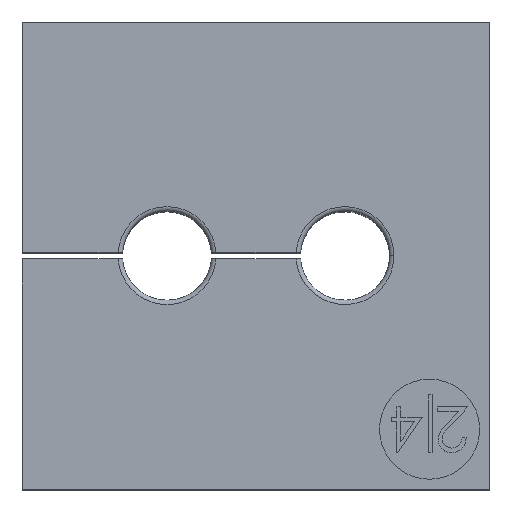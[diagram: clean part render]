
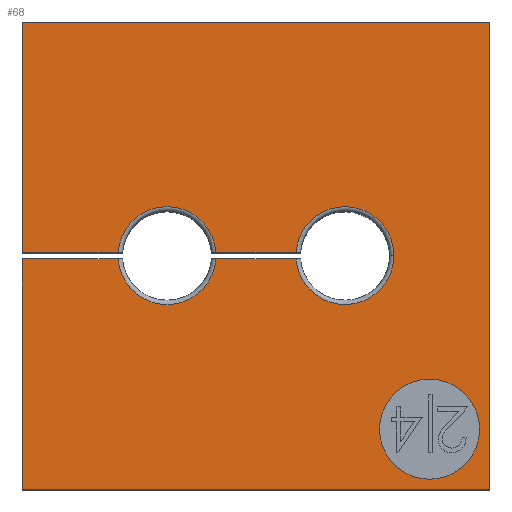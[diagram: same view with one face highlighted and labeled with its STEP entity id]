
A CAD part, top view. The second image highlights one B-rep face of the part: STEP entity #68.
In plain terms, the highlighted planar face has unit normal (0, 0, 1).
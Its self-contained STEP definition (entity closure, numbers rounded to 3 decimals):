
#68=ADVANCED_FACE('NONE',(#165,#166),#167,.F.);
#165=FACE_OUTER_BOUND('',#311,.T.);
#166=FACE_BOUND('',#312,.T.);
#167=PLANE('',#313);
#311=EDGE_LOOP('',(#811,#812,#813,#814,#815,#816,#817,#818,#819,#820,#821,#822,#823));
#312=EDGE_LOOP('',(#824,#825));
#313=AXIS2_PLACEMENT_3D('',#826,#827,#828);
#811=ORIENTED_EDGE('',*,*,#1194,.T.);
#812=ORIENTED_EDGE('',*,*,#1277,.F.);
#813=ORIENTED_EDGE('',*,*,#1222,.T.);
#814=ORIENTED_EDGE('',*,*,#1278,.F.);
#815=ORIENTED_EDGE('',*,*,#1178,.T.);
#816=ORIENTED_EDGE('',*,*,#1279,.T.);
#817=ORIENTED_EDGE('',*,*,#1280,.F.);
#818=ORIENTED_EDGE('',*,*,#1281,.T.);
#819=ORIENTED_EDGE('',*,*,#1282,.F.);
#820=ORIENTED_EDGE('',*,*,#1268,.T.);
#821=ORIENTED_EDGE('',*,*,#1263,.F.);
#822=ORIENTED_EDGE('',*,*,#1267,.F.);
#823=ORIENTED_EDGE('',*,*,#1253,.T.);
#824=ORIENTED_EDGE('',*,*,#1283,.F.);
#825=ORIENTED_EDGE('',*,*,#1186,.F.);
#826=CARTESIAN_POINT('',(0.0,0.0,9.5));
#827=DIRECTION('',(0.0,0.0,-1.0));
#828=DIRECTION('',(0.0,-1.0,0.0));
#1178=EDGE_CURVE('NONE',#1365,#1362,#1366,.T.);
#1186=EDGE_CURVE('NONE',#1378,#1380,#1381,.T.);
#1194=EDGE_CURVE('NONE',#1396,#1394,#1397,.T.);
#1222=EDGE_CURVE('NONE',#1443,#1445,#1447,.T.);
#1253=EDGE_CURVE('NONE',#1503,#1396,#1505,.T.);
#1263=EDGE_CURVE('NONE',#1520,#1522,#1523,.T.);
#1267=EDGE_CURVE('NONE',#1503,#1520,#1528,.T.);
#1268=EDGE_CURVE('NONE',#1529,#1522,#1530,.T.);
#1277=EDGE_CURVE('NONE',#1443,#1394,#1544,.T.);
#1278=EDGE_CURVE('NONE',#1365,#1445,#1545,.T.);
#1279=EDGE_CURVE('NONE',#1362,#1546,#1547,.T.);
#1280=EDGE_CURVE('NONE',#1548,#1546,#1549,.T.);
#1281=EDGE_CURVE('NONE',#1548,#1550,#1551,.T.);
#1282=EDGE_CURVE('NONE',#1529,#1550,#1552,.T.);
#1283=EDGE_CURVE('NONE',#1380,#1378,#1553,.T.);
#1362=VERTEX_POINT('',#1670);
#1365=VERTEX_POINT('NONE',#1673);
#1366=CIRCLE('',#1674,2.2);
#1378=VERTEX_POINT('NONE',#1693);
#1380=VERTEX_POINT('NONE',#1696);
#1381=CIRCLE('',#1697,2.25);
#1394=VERTEX_POINT('NONE',#1714);
#1396=VERTEX_POINT('NONE',#1717);
#1397=LINE('',#1718,#1719);
#1443=VERTEX_POINT('NONE',#1788);
#1445=VERTEX_POINT('NONE',#1795);
#1447=CIRCLE('',#1802,2.2);
#1503=VERTEX_POINT('NONE',#1979);
#1505=LINE('',#1982,#1983);
#1520=VERTEX_POINT('NONE',#2006);
#1522=VERTEX_POINT('NONE',#2009);
#1523=LINE('',#2010,#2011);
#1528=LINE('',#2019,#2020);
#1529=VERTEX_POINT('NONE',#2021);
#1530=LINE('',#2022,#2023);
#1544=LINE('',#2045,#2046);
#1545=LINE('',#2047,#2048);
#1546=VERTEX_POINT('NONE',#2049);
#1547=CIRCLE('',#2050,2.2);
#1548=VERTEX_POINT('NONE',#2051);
#1549=LINE('',#2052,#2053);
#1550=VERTEX_POINT('NONE',#2054);
#1551=CIRCLE('',#2055,2.2);
#1552=LINE('',#2056,#2057);
#1553=CIRCLE('',#2058,2.25);
#1670=CARTESIAN_POINT('',(16.7,0.,9.5));
#1673=CARTESIAN_POINT('',(12.305,0.15,9.5));
#1674=AXIS2_PLACEMENT_3D('',#2357,#2358,#2359);
#1693=CARTESIAN_POINT('',(16.05,-7.8,9.5));
#1696=CARTESIAN_POINT('',(20.55,-7.8,9.5));
#1697=AXIS2_PLACEMENT_3D('',#2372,#2373,#2374);
#1714=CARTESIAN_POINT('',(0.0,0.15,9.5));
#1717=CARTESIAN_POINT('',(0.0,10.5,9.5));
#1718=CARTESIAN_POINT('',(0.0,0.0,9.5));
#1719=VECTOR('',#2386,1000.0);
#1788=CARTESIAN_POINT('',(4.305,0.15,9.5));
#1795=CARTESIAN_POINT('',(8.695,0.15,9.5));
#1802=AXIS2_PLACEMENT_3D('',#2416,#2417,#2418);
#1979=CARTESIAN_POINT('',(21.0,10.5,9.5));
#1982=CARTESIAN_POINT('',(0.0,10.5,9.5));
#1983=VECTOR('',#2447,1000.0);
#2006=CARTESIAN_POINT('',(21.0,-10.5,9.5));
#2009=CARTESIAN_POINT('',(0.0,-10.5,9.5));
#2010=CARTESIAN_POINT('',(0.0,-10.5,9.5));
#2011=VECTOR('',#2457,1000.0);
#2019=CARTESIAN_POINT('',(21.0,0.,9.5));
#2020=VECTOR('',#2461,1000.0);
#2021=CARTESIAN_POINT('',(0.0,-0.15,9.5));
#2022=CARTESIAN_POINT('',(0.0,0.0,9.5));
#2023=VECTOR('',#2462,1000.0);
#2045=CARTESIAN_POINT('',(0.0,0.15,9.5));
#2046=VECTOR('',#2471,1000.0);
#2047=CARTESIAN_POINT('',(0.0,0.15,9.5));
#2048=VECTOR('',#2472,1000.0);
#2049=CARTESIAN_POINT('',(12.305,-0.15,9.5));
#2050=AXIS2_PLACEMENT_3D('',#2473,#2474,#2475);
#2051=CARTESIAN_POINT('',(8.695,-0.15,9.5));
#2052=CARTESIAN_POINT('',(0.0,-0.15,9.5));
#2053=VECTOR('',#2476,1000.0);
#2054=CARTESIAN_POINT('',(4.305,-0.15,9.5));
#2055=AXIS2_PLACEMENT_3D('',#2477,#2478,#2479);
#2056=CARTESIAN_POINT('',(0.0,-0.15,9.5));
#2057=VECTOR('',#2480,1000.0);
#2058=AXIS2_PLACEMENT_3D('',#2481,#2482,#2483);
#2357=CARTESIAN_POINT('',(14.5,0.,9.5));
#2358=DIRECTION('',(0.0,0.0,-1.0));
#2359=DIRECTION('',(-1.0,0.0,0.0));
#2372=CARTESIAN_POINT('',(18.3,-7.8,9.5));
#2373=DIRECTION('',(0.0,0.0,1.0));
#2374=DIRECTION('',(1.0,0.0,0.0));
#2386=DIRECTION('',(-0.0,-1.0,-0.0));
#2416=CARTESIAN_POINT('',(6.5,0.,9.5));
#2417=DIRECTION('',(0.0,0.0,-1.0));
#2418=DIRECTION('',(-1.0,0.0,0.0));
#2447=DIRECTION('',(-1.0,-0.0,-0.0));
#2457=DIRECTION('',(-1.0,0.0,-0.0));
#2461=DIRECTION('',(0.,-1.0,-0.0));
#2462=DIRECTION('',(-0.0,-1.0,-0.0));
#2471=DIRECTION('',(-1.0,0.,-0.0));
#2472=DIRECTION('',(-1.0,0.,-0.0));
#2473=CARTESIAN_POINT('',(14.5,0.,9.5));
#2474=DIRECTION('',(0.0,0.0,-1.0));
#2475=DIRECTION('',(-1.0,0.0,0.0));
#2476=DIRECTION('',(1.0,0.,0.0));
#2477=CARTESIAN_POINT('',(6.5,0.,9.5));
#2478=DIRECTION('',(0.0,0.0,-1.0));
#2479=DIRECTION('',(-1.0,0.0,0.0));
#2480=DIRECTION('',(1.0,0.,0.0));
#2481=CARTESIAN_POINT('',(18.3,-7.8,9.5));
#2482=DIRECTION('',(0.0,0.0,1.0));
#2483=DIRECTION('',(1.0,0.0,0.0));
